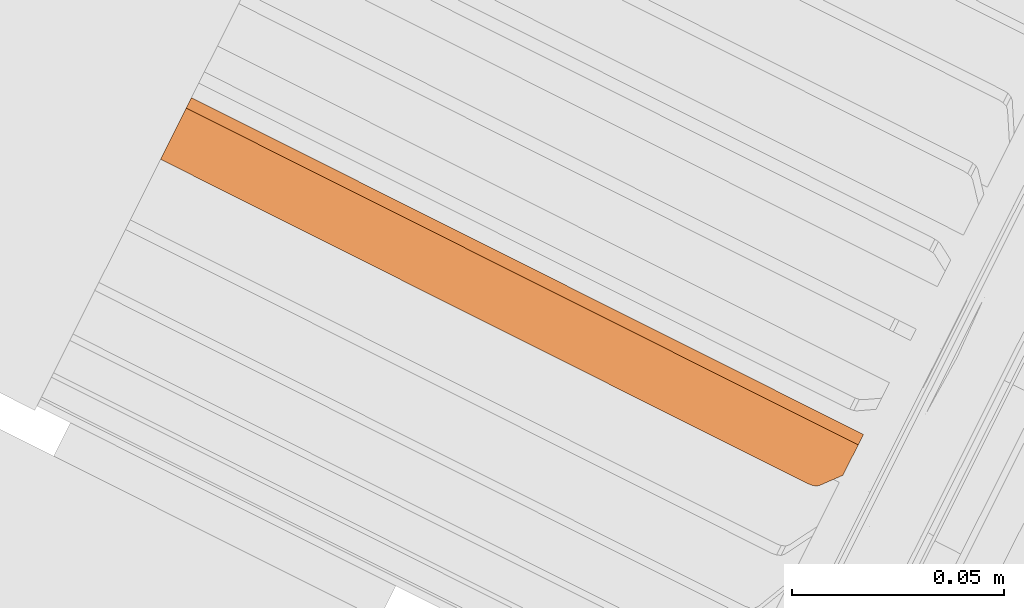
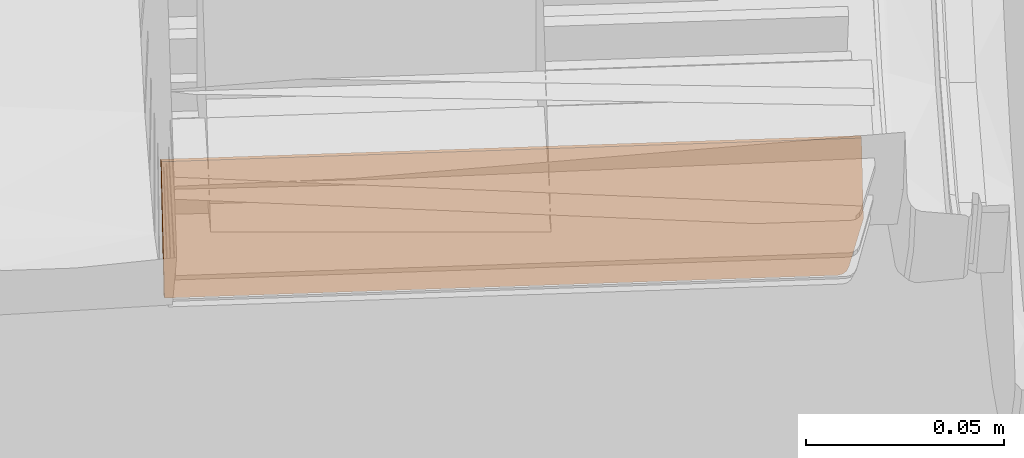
# One storey, part 179 of 206: 1 proxy.
"""IFC2X3 building model written with IfcOpenShell, lengths in metres."""

from ifc_helpers import new_model, si_unit, derived_unit, direction, frame, origin, place, context, subcontext, project, spatial, faceted_brep, source, transform, mapped, material, type_object, type_shapes, element, save


model = new_model("IFC2X3")

# Units and contexts
model_context = context("Model", 3, precision=5.2338327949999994e-05, world=origin(), true_north=direction((0.0, 1.0)))
body_context = subcontext(model_context, "Body", "Model", "MODEL_VIEW")
ifc_project = project(units=[si_unit("LENGTHUNIT", "METRE"), si_unit("AREAUNIT", "SQUARE_METRE"), si_unit("VOLUMEUNIT", "CUBIC_METRE"), si_unit("MASSUNIT", "GRAM", prefix="KILO"), si_unit("PLANEANGLEUNIT", "RADIAN"), derived_unit("THERMALTRANSMITTANCEUNIT", [(si_unit("MASSUNIT", "GRAM", prefix="KILO"), 1), (si_unit("THERMODYNAMICTEMPERATUREUNIT", "KELVIN"), -1), (si_unit("TIMEUNIT", "SECOND"), -3)])], contexts=[model_context])

# Site, building, storey
site_placement = place(None, frame((0.0, 0.0, 0.0), z_axis=(0.0, 0.0, 1.0), x_axis=(0.8939966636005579, -0.4480736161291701, 0.0)))
site = spatial("IfcSite", under=ifc_project, at=site_placement, Name="Default", CompositionType="ELEMENT")
building_placement = place(site_placement, origin())
building = spatial("IfcBuilding", under=site, at=building_placement, CompositionType="ELEMENT")
storey_placement = place(building_placement, origin())
storey = spatial("IfcBuildingStorey", under=building, at=storey_placement, Name="Erdgeschoss", CompositionType="ELEMENT", Elevation=0.0)

# Proxy
ifc_material = material(Name="IfcSurfaceStyle #623543")
building_element_proxy_type = type_object("IfcBuildingElementProxyType", Name="BuildingElementProxy 87:BuildingElementProxy 87", PredefinedType="NOTDEFINED", material=ifc_material)
shared_shape = source(origin(), body_context, "Body", "Brep", [
    faceted_brep([(21.308483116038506, 4.169842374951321, 0.6206274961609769), (21.308483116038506, 4.161821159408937, 0.6012625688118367), (21.308483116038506, 4.172614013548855, 0.6194794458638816), (21.308483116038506, 4.164592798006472, 0.6001145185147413), (21.304532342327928, 4.157105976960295, 0.589879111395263), (21.301675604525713, 4.156308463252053, 0.5879537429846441), (21.130911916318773, 4.169842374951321, 0.6206274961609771), (21.130911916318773, 4.156308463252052, 0.5879537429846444), (21.302899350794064, 4.156408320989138, 0.5881948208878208), (21.303910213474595, 4.156690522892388, 0.588876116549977), (21.130911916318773, 4.172614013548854, 0.6194794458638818), (21.130911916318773, 4.159080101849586, 0.5868056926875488), (21.301675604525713, 4.159080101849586, 0.5868056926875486), (21.302899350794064, 4.159179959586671, 0.5870467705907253), (21.303910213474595, 4.159462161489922, 0.5877280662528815), (21.304532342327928, 4.159877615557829, 0.5887310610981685)], [[[0, 1, 2]], [[2, 1, 3]], [[4, 1, 5]], [[5, 1, 0]], [[5, 0, 6]], [[6, 7, 5]], [[5, 8, 4]], [[4, 8, 9]], [[0, 2, 6]], [[6, 2, 10]], [[7, 6, 11]], [[11, 6, 10]], [[7, 11, 5]], [[5, 11, 12]], [[12, 13, 5]], [[5, 13, 8]], [[13, 14, 8]], [[8, 14, 9]], [[14, 15, 9]], [[9, 15, 4]], [[3, 1, 15]], [[15, 1, 4]], [[10, 2, 12]], [[12, 2, 3]], [[12, 3, 15]], [[14, 13, 15]], [[15, 13, 12]], [[12, 11, 10]]]),
])
type_shapes(building_element_proxy_type, [shared_shape])
proxy_placement = place(storey_placement, origin())
element("IfcBuildingElementProxy", 1, at=proxy_placement, inside=storey, type_object=building_element_proxy_type, material=ifc_material, Name="BuildingElementProxy 87", context=body_context, shape_type="MappedRepresentation", body=[
    mapped(shared_shape, transform((0.0, 0.0, 0.0), scale=1.0)),
])

save(model, "model.ifc")
